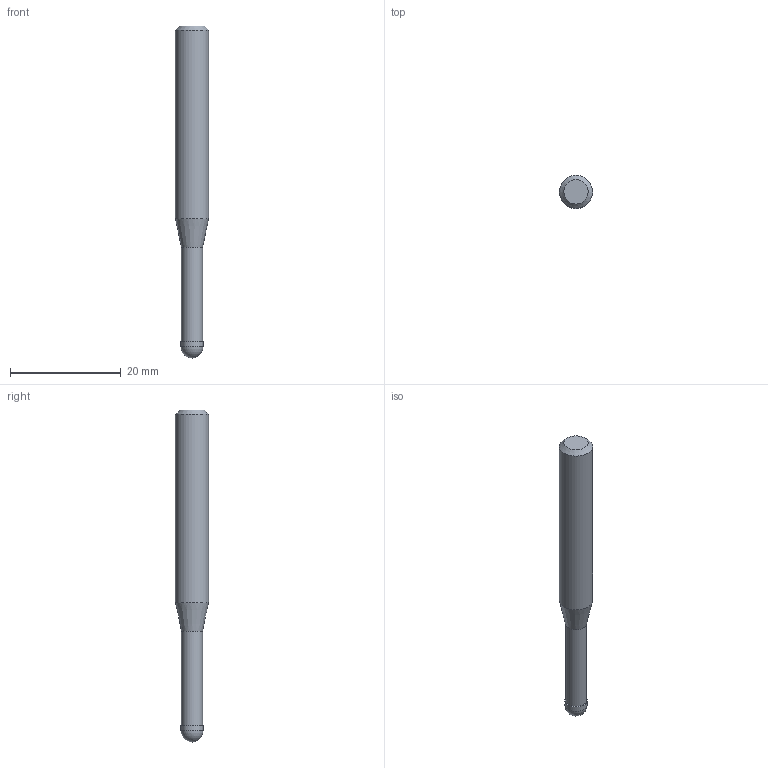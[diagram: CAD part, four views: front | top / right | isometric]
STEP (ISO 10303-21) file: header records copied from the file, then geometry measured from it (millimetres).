
FILE_DESCRIPTION((''),'2;1');
FILE_NAME('C:\Users\nsx150\AppData\Local\Temp\Mastercam 2021\ZXBT0ST9RL\TEMP.step','2021-06-25T11:03:27',(''),(''),'STEP Write','Mastercam 2021 ... CNC Software, Inc.','');
FILE_SCHEMA(('AUTOMOTIVE_DESIGN'));
Length unit declared in the file: millimetre
Products named in the file (1): None
Bounding box: 6 x 6 x 60 mm (x, y, z)
Volume: 1300.5 mm3; surface area: 1021 mm2
Topology: 2 solids, 2 shells, 9 faces, 14 edges, 8 vertices
Faces by surface type: plane 3, cylinder 3, cone 2, sphere 1
Full cylindrical faces by diameter (mm): 3.8 x1, 4 x1, 6 x1
Entity records: 211 total; most frequent: DIRECTION 36, CARTESIAN_POINT 25, AXIS2_PLACEMENT_3D 18, ORIENTED_EDGE 14, EDGE_LOOP 14, STYLED_ITEM 12, ADVANCED_FACE 9, FACE_BOUND 8
